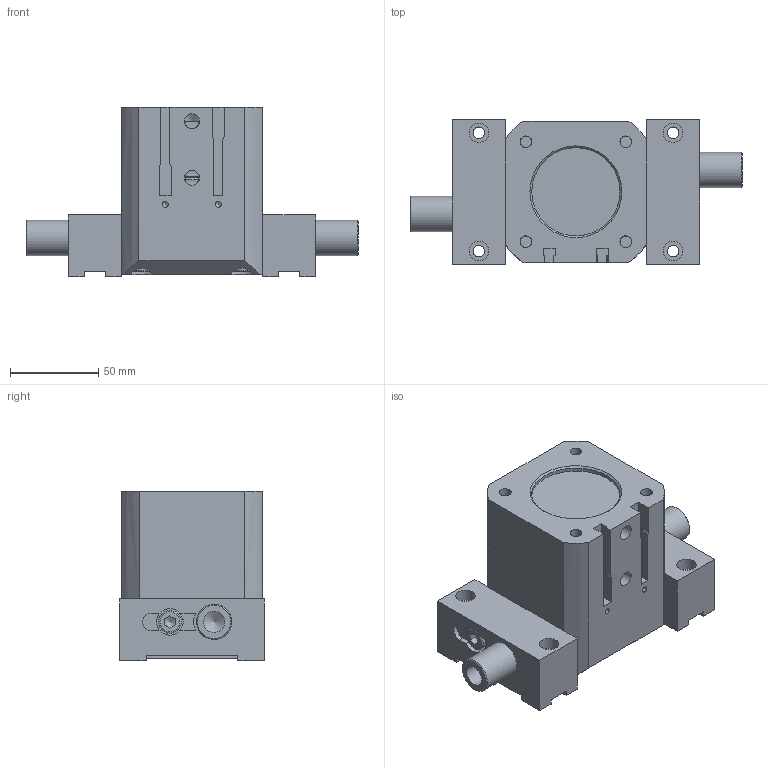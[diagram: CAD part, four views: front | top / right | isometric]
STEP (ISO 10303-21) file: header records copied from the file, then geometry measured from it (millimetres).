
FILE_DESCRIPTION((''),'2;1');
FILE_NAME('T:\CAD\Standard\Daten\3D-Datenbank\GP\4 - 3D-CAD-Daten GP 050-125\GP100\step-Daten\G-GP100-l2-GÖ+UB closed.stp','2013-11-07T12:07:16',('Dirk'),(''),'Autodesk Inventor 2011','Autodesk Inventor 2011','');
FILE_SCHEMA(('AUTOMOTIVE_DESIGN { 1 0 10303 214 1 1 1 1 }'));
Length unit declared in the file: millimetre
Products named in the file (1): Bauteil59
Bounding box: 188.01 x 82 x 96 mm (x, y, z)
Volume: 714495.4 mm3; surface area: 139628.3 mm2
Topology: 22 solids, 22 shells, 424 faces, 1053 edges, 678 vertices
Faces by surface type: plane 236, cylinder 123, cone 40, torus 24, bspline 1
Full cylindrical faces by diameter (mm): 3.242 x2, 6.647 x10, 8 x6, 8.2 x4, 8.376 x1, 8.566 x2, 9 x2, 10 x1, 11 x6, 12 x2, 13 x6, 15 x8, 20 x5, 22 x5, 23 x2, 24 x1, 28.4 x2, 33 x1, 45 x1, 48 x1, 50 x1, 52 x2, 54.2 x1, 61.1 x2, 62 x1, 64 x5
Entity records: 12822 total; most frequent: CARTESIAN_POINT 2993, DIRECTION 1952, ORIENTED_EDGE 1688, EDGE_CURVE 844, AXIS2_PLACEMENT_3D 754, EDGE_LOOP 633, VERTEX_POINT 607, VECTOR 444
